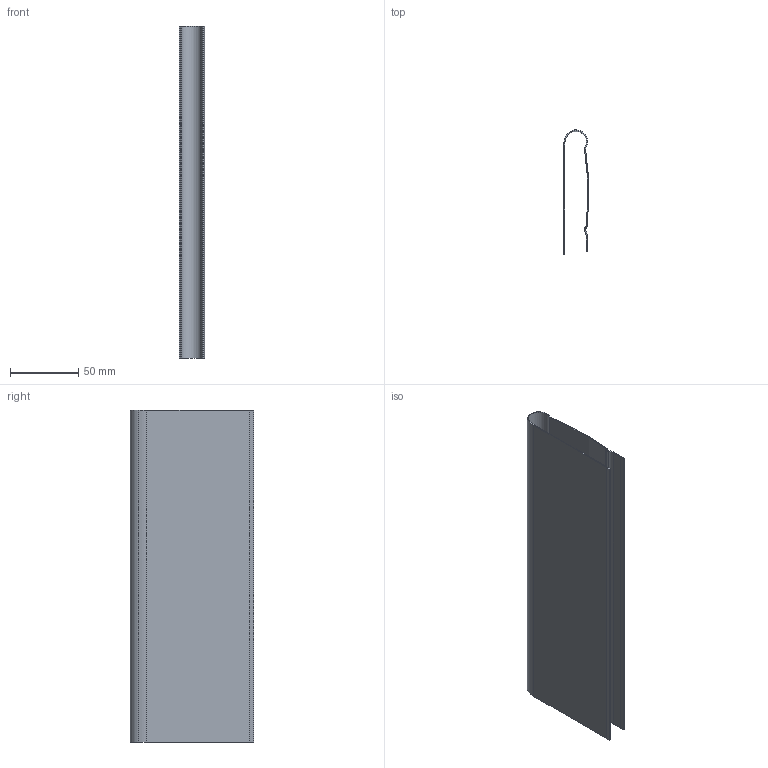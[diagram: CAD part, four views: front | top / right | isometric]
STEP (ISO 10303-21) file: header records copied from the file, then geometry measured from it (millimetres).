
FILE_DESCRIPTION (( 'STEP AP214' ), '1' );
FILE_NAME ('_Duowing NL275.step', '2010-07-14T13:30:45', ( 'grass' ), ( '' ), 'SwSTEP 2.0', 'SolidWorks 2010', '' );
FILE_SCHEMA (( 'AUTOMOTIVE_DESIGN' ));
Length unit declared in the file: millimetre
Products named in the file (1): _Duowing NL275
Bounding box: 18.64 x 90.48 x 243 mm (x, y, z)
Volume: 34405 mm3; surface area: 92394.2 mm2
Topology: 1 solids, 1 shells, 54 faces, 108 edges, 56 vertices
Faces by surface type: plane 36, cylinder 18
Entity records: 1378 total; most frequent: DIRECTION 254, CARTESIAN_POINT 219, ORIENTED_EDGE 216, EDGE_CURVE 108, AXIS2_PLACEMENT_3D 91, LINE 72, VECTOR 72, VERTEX_POINT 56
